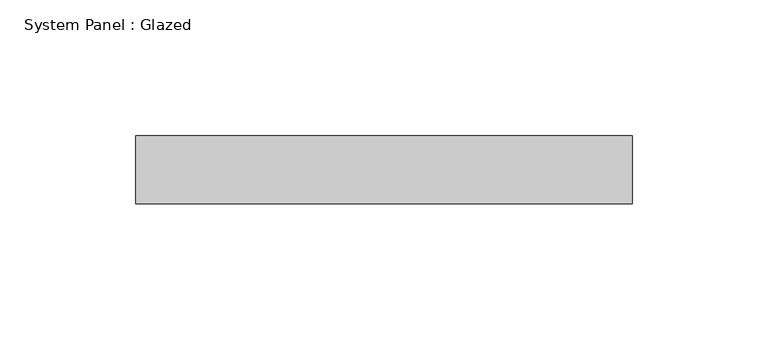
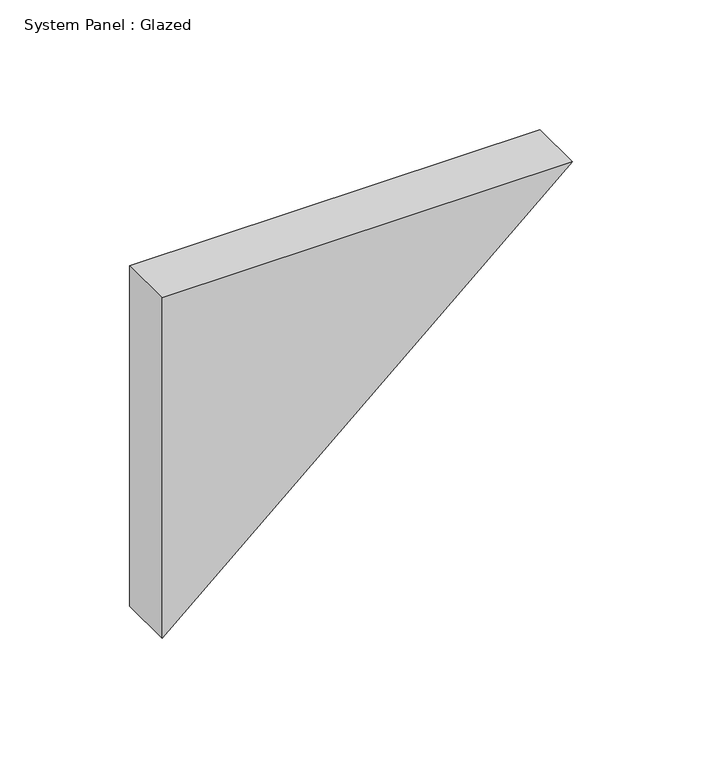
"""IFC4 building model written with IfcOpenShell, lengths in millimetres: plate geometry, System Panel : Glazed."""

from ifc_helpers import new_model, si_unit, frame, origin, place, context, project, spatial, polyline, outline, extrude, source, transform, mapped, element, save


def system_panel_glazed_02633cbb(model_context):
    return source(origin(), model_context, "Body", "SweptSolid", [
        extrude(outline(polyline([(160.1524823, -91.3322726), (0.0, -91.3322726), (160.1524823, 91.3322726), (160.1524823, -91.3322726)])), frame((0.0, 24.5, 0.0), z_axis=(0.0, 1.0, 0.0), x_axis=(0.0, 0.0, 1.0)), (0.0, 0.0, 1.0), 25.0),
    ])


if __name__ == "__main__":
    model = new_model("IFC4")
    model_context = context("Model", 3, world=origin())
    ifc_project = project(units=[si_unit("LENGTHUNIT", "METRE", prefix="MILLI")], contexts=[model_context])
    site = spatial("IfcSite", under=ifc_project)
    building = spatial("IfcBuilding", under=site)
    placement = place(None, origin())
    system_panel_glazed_shape = system_panel_glazed_02633cbb(model_context)
    element("IfcPlate", 1, ObjectType="System Panel : Glazed", at=placement, inside=building, context=model_context, shape_type="MappedRepresentation", body=[
        mapped(system_panel_glazed_shape, transform((0.0, 0.0, 0.0), x_axis=(1.0, 0.0, 0.0), y_axis=(0.0, 1.0, 0.0), z_axis=(0.0, 0.0, 1.0))),
    ])
    save(model, "model.ifc")
